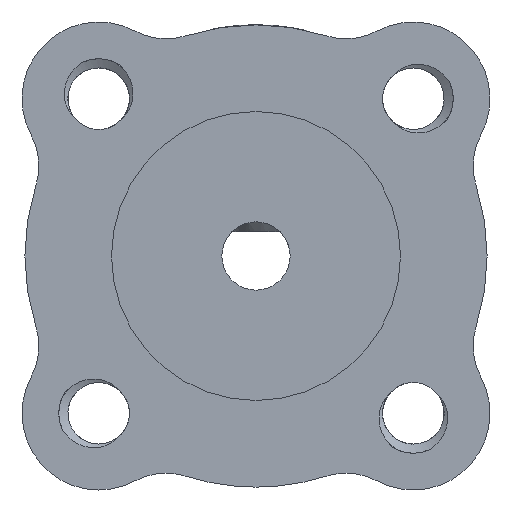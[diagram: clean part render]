
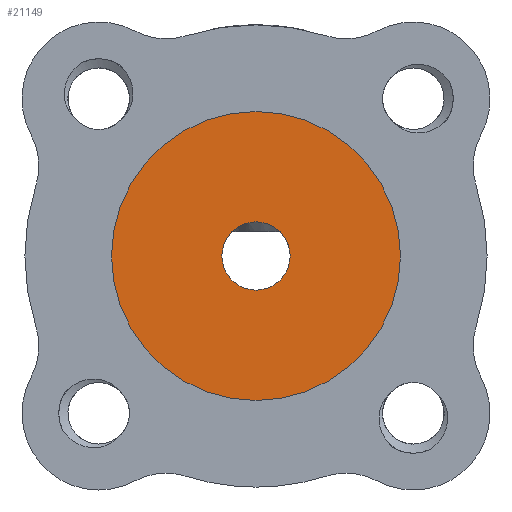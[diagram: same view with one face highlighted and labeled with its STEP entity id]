
A CAD part, front view. The second image highlights one B-rep face of the part: STEP entity #21149.
In plain terms, the highlighted planar face has unit normal (0, -1, 0).
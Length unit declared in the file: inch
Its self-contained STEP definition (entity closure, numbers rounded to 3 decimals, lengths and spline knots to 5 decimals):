
#268 = EDGE_CURVE ( 'NONE', #18031, #8630, #12106, .T. ) ;
#286 = CIRCLE ( 'NONE', #3730, 0.25 ) ;
#1630 = DIRECTION ( 'NONE',  ( 0., 1., 0. ) ) ;
#1767 = ORIENTED_EDGE ( 'NONE', *, *, #268, .F. ) ;
#2216 = FACE_BOUND ( 'NONE', #11862, .T. ) ;
#2309 = VERTEX_POINT ( 'NONE', #20077 ) ;
#2586 = AXIS2_PLACEMENT_3D ( 'NONE', #16228, #5389, #16150 ) ;
#3585 = CIRCLE ( 'NONE', #10491, 0.05906 ) ;
#3730 = AXIS2_PLACEMENT_3D ( 'NONE', #8833, #1630, #23345 ) ;
#3988 = DIRECTION ( 'NONE',  ( 0., 0., 1. ) ) ;
#5389 = DIRECTION ( 'NONE',  ( 0., 1., 0. ) ) ;
#6657 = AXIS2_PLACEMENT_3D ( 'NONE', #7500, #14727, #3988 ) ;
#7500 = CARTESIAN_POINT ( 'NONE',  ( 0., 0., 0. ) ) ;
#7674 = DIRECTION ( 'NONE',  ( 0., 1., 0. ) ) ;
#7923 = AXIS2_PLACEMENT_3D ( 'NONE', #9319, #7674, #19935 ) ;
#8470 = CARTESIAN_POINT ( 'NONE',  ( 0., 0., 0. ) ) ;
#8630 = VERTEX_POINT ( 'NONE', #21766 ) ;
#8742 = FACE_OUTER_BOUND ( 'NONE', #16922, .T. ) ;
#8833 = CARTESIAN_POINT ( 'NONE',  ( 0., 0., 0. ) ) ;
#9015 = CIRCLE ( 'NONE', #6657, 0.05906 ) ;
#9319 = CARTESIAN_POINT ( 'NONE',  ( 0., 0., 0. ) ) ;
#10123 = CARTESIAN_POINT ( 'NONE',  ( 0., 0., -0.05906 ) ) ;
#10289 = DIRECTION ( 'NONE',  ( 0., 0., 1. ) ) ;
#10491 = AXIS2_PLACEMENT_3D ( 'NONE', #8470, #21078, #10289 ) ;
#11310 = EDGE_CURVE ( 'NONE', #2309, #12521, #3585, .T. ) ;
#11336 = ORIENTED_EDGE ( 'NONE', *, *, #11310, .T. ) ;
#11862 = EDGE_LOOP ( 'NONE', ( #11336, #18829 ) ) ;
#12106 = CIRCLE ( 'NONE', #7923, 0.25 ) ;
#12521 = VERTEX_POINT ( 'NONE', #10123 ) ;
#12841 = EDGE_CURVE ( 'NONE', #12521, #2309, #9015, .T. ) ;
#14727 = DIRECTION ( 'NONE',  ( 0., 1., 0. ) ) ;
#16150 = DIRECTION ( 'NONE',  ( 0., 0., 1. ) ) ;
#16228 = CARTESIAN_POINT ( 'NONE',  ( 0., 0., 0. ) ) ;
#16427 = EDGE_CURVE ( 'NONE', #8630, #18031, #286, .T. ) ;
#16907 = ORIENTED_EDGE ( 'NONE', *, *, #16427, .F. ) ;
#16922 = EDGE_LOOP ( 'NONE', ( #16907, #1767 ) ) ;
#18031 = VERTEX_POINT ( 'NONE', #18457 ) ;
#18457 = CARTESIAN_POINT ( 'NONE',  ( 0., 0., 0.25 ) ) ;
#18829 = ORIENTED_EDGE ( 'NONE', *, *, #12841, .T. ) ;
#19935 = DIRECTION ( 'NONE',  ( 0., 0., 1. ) ) ;
#20077 = CARTESIAN_POINT ( 'NONE',  ( 0., 0., 0.05906 ) ) ;
#21078 = DIRECTION ( 'NONE',  ( 0., 1., 0. ) ) ;
#21149 = ADVANCED_FACE ( 'NONE', ( #2216, #8742 ), #21627, .F. ) ;
#21627 = PLANE ( 'NONE',  #2586 ) ;
#21766 = CARTESIAN_POINT ( 'NONE',  ( 0., 0., -0.25 ) ) ;
#23345 = DIRECTION ( 'NONE',  ( 0., 0., 1. ) ) ;
